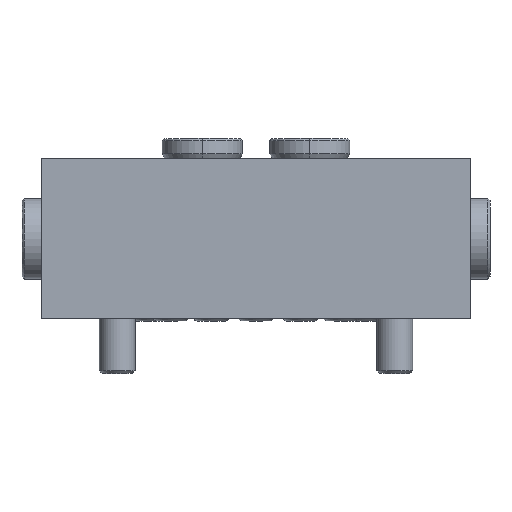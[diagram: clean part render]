
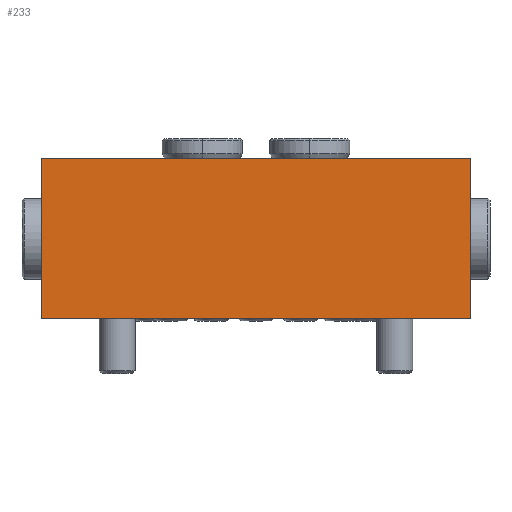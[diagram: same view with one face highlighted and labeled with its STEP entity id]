
A CAD part, top view. The second image highlights one B-rep face of the part: STEP entity #233.
In plain terms, the highlighted planar face has unit normal (0, 0, 1).
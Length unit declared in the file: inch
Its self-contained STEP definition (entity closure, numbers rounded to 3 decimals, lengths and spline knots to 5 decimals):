
#9=DIRECTION('',(0.,1.,0.));
#10=VECTOR('',#9,1.1185);
#11=CARTESIAN_POINT('',(1.4995,-0.55925,0.44925));
#12=LINE('',#11,#10);
#59=DIRECTION('',(-1.,0.,0.));
#60=VECTOR('',#59,3.);
#61=CARTESIAN_POINT('',(1.4995,0.55925,0.44925));
#62=LINE('',#61,#60);
#63=DIRECTION('',(-1.,0.,0.));
#64=VECTOR('',#63,3.);
#65=CARTESIAN_POINT('',(1.4995,-0.55925,0.44925));
#66=LINE('',#65,#64);
#79=DIRECTION('',(0.,1.,0.));
#80=VECTOR('',#79,1.1185);
#81=CARTESIAN_POINT('',(-1.5005,-0.55925,0.44925));
#82=LINE('',#81,#80);
#101=CARTESIAN_POINT('',(1.4995,0.55925,0.44925));
#103=VERTEX_POINT('',#101);
#106=CARTESIAN_POINT('',(1.4995,-0.55925,0.44925));
#108=VERTEX_POINT('',#106);
#109=CARTESIAN_POINT('',(-1.5005,0.55925,0.44925));
#111=VERTEX_POINT('',#109);
#114=CARTESIAN_POINT('',(-1.5005,-0.55925,0.44925));
#116=VERTEX_POINT('',#114);
#220=CARTESIAN_POINT('',(1.4995,-0.55925,0.44925));
#221=DIRECTION('',(0.,0.,1.));
#222=DIRECTION('',(0.,1.,0.));
#223=AXIS2_PLACEMENT_3D('',#220,#221,#222);
#224=PLANE('',#223);
#225=ORIENTED_EDGE('',*,*,#144,.F.);
#227=ORIENTED_EDGE('',*,*,#226,.T.);
#229=ORIENTED_EDGE('',*,*,#228,.T.);
#230=ORIENTED_EDGE('',*,*,#212,.F.);
#231=EDGE_LOOP('',(#225,#227,#229,#230));
#232=FACE_OUTER_BOUND('',#231,.F.);
#233=ADVANCED_FACE('',(#232),#224,.T.);
#144=EDGE_CURVE('',#108,#103,#12,.T.);
#212=EDGE_CURVE('',#103,#111,#62,.T.);
#226=EDGE_CURVE('',#108,#116,#66,.T.);
#228=EDGE_CURVE('',#116,#111,#82,.T.);
